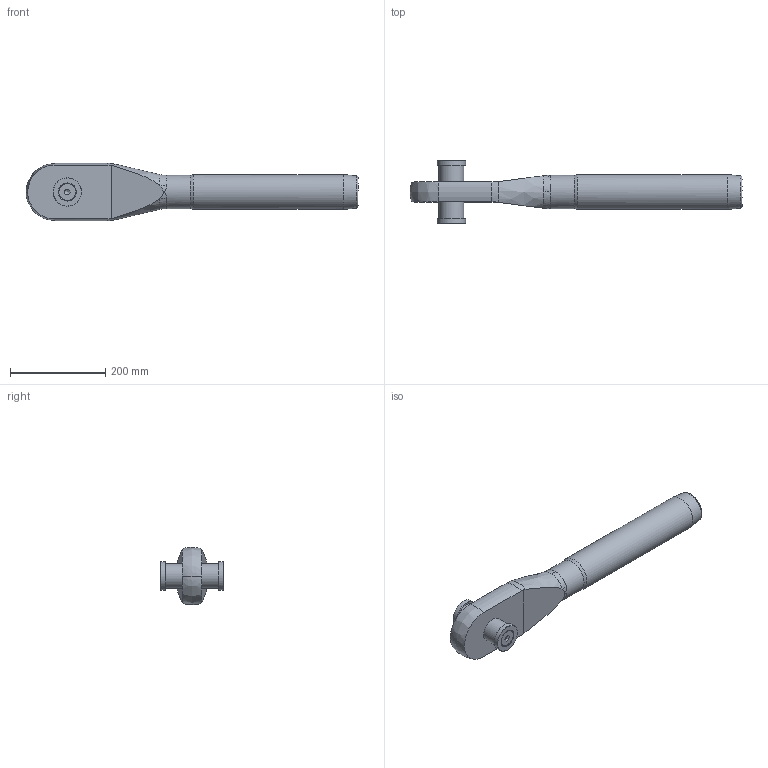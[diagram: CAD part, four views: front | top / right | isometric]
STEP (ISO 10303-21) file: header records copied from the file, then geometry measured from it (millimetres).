
FILE_DESCRIPTION(/* description */ (''),/* implementation_level */ '2;1');
FILE_NAME(/* name */ 'MCC 38_42CrMo4',/* time_stamp */ '2023-05-23T15:41:07+02:00',/* author */ (''),/* organization */ (''),/* preprocessor_version */ 'ST-DEVELOPER v16.5',/* originating_system */ 'Rhino 7.22',/* authorisation */ '');
FILE_SCHEMA (('CONFIG_CONTROL_DESIGN'));
Length unit declared in the file: millimetre
Products named in the file (1): Document
Bounding box: 698.5 x 131.78 x 120.99 mm (x, y, z)
Volume: 3253298.1 mm3; surface area: 233846 mm2
Topology: 6 solids, 6 shells, 74 faces, 202 edges, 134 vertices
Faces by surface type: bspline 31, plane 27, cylinder 16
Full cylindrical faces by diameter (mm): 17.294 x2, 20 x2, 21 x2, 35.4 x2, 52 x1, 53 x1, 60 x2, 70 x1, 73.5 x1
Entity records: 3246 total; most frequent: CARTESIAN_POINT 1995, ORIENTED_EDGE 384, EDGE_CURVE 192, VERTEX_POINT 134, EDGE_LOOP 84, ADVANCED_FACE 74, FACE_OUTER_BOUND 74, B_SPLINE_CURVE_WITH_KNOTS 64
